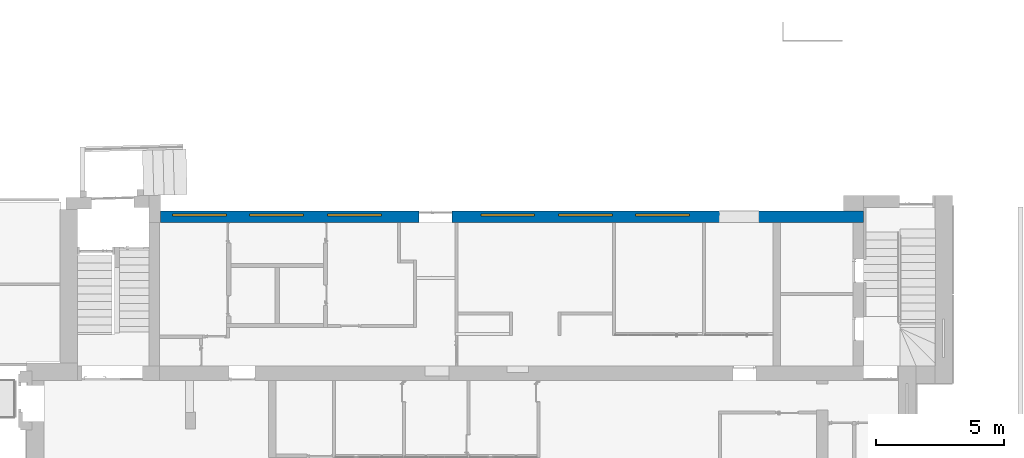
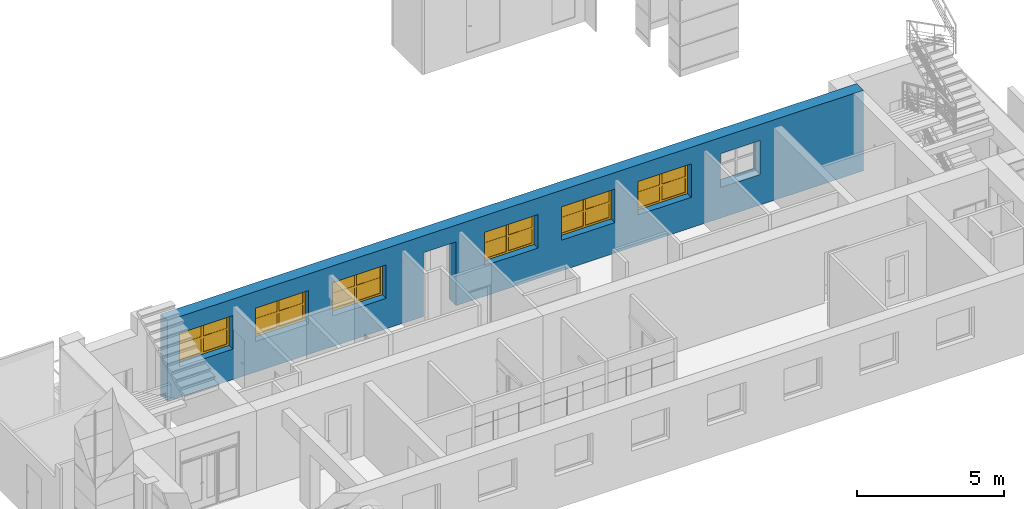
# One storey, part 25 of 49: 6 windows, 1 wall, 8 openings.
"""IFC2X3 building model written with IfcOpenShell, lengths in millimetres."""

from ifc_helpers import new_model, entity, si_unit, converted_unit, derived_unit, direction, frame, frame_2d, origin, place, context, subcontext, project, spatial, rectangle, extrude, face_set, faceted_brep, surface_model, source, transform, mapped, material, material_list, layer, layer_set, layer_usage, type_object, type_shapes, element, fill, save


model = new_model("IFC2X3")

# Units and contexts
model_context = context("Model", 3, precision=0.01, world=origin(), true_north=direction((6.12303176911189e-17, 1.0)))
body_context = subcontext(model_context, "Body", "Model", "MODEL_VIEW")
ifc_project = project(units=[si_unit("LENGTHUNIT", "METRE", prefix="MILLI"), si_unit("AREAUNIT", "SQUARE_METRE"), si_unit("VOLUMEUNIT", "CUBIC_METRE"), converted_unit("PLANEANGLEUNIT", "DEGREE", entity("IfcRatioMeasure", 0.0174532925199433), si_unit("PLANEANGLEUNIT", "RADIAN"), dimensions=[0, 0, 0, 0, 0, 0, 0]), si_unit("MASSUNIT", "GRAM", prefix="KILO"), derived_unit("MASSDENSITYUNIT", [(si_unit("MASSUNIT", "GRAM", prefix="KILO"), 1), (si_unit("LENGTHUNIT", "METRE"), -3)]), si_unit("TIMEUNIT", "SECOND"), si_unit("FREQUENCYUNIT", "HERTZ"), si_unit("THERMODYNAMICTEMPERATUREUNIT", "DEGREE_CELSIUS"), derived_unit("THERMALTRANSMITTANCEUNIT", [(si_unit("MASSUNIT", "GRAM", prefix="KILO"), 1), (si_unit("THERMODYNAMICTEMPERATUREUNIT", "KELVIN"), -1), (si_unit("TIMEUNIT", "SECOND"), -3)]), derived_unit("VOLUMETRICFLOWRATEUNIT", [(si_unit("LENGTHUNIT", "METRE"), 3), (si_unit("TIMEUNIT", "SECOND"), -1)]), si_unit("ELECTRICCURRENTUNIT", "AMPERE"), si_unit("ELECTRICVOLTAGEUNIT", "VOLT"), si_unit("POWERUNIT", "WATT"), si_unit("FORCEUNIT", "NEWTON", prefix="KILO"), si_unit("ILLUMINANCEUNIT", "LUX"), si_unit("LUMINOUSFLUXUNIT", "LUMEN"), si_unit("LUMINOUSINTENSITYUNIT", "CANDELA"), derived_unit("USERDEFINED", [(si_unit("MASSUNIT", "GRAM", prefix="KILO"), -1), (si_unit("LENGTHUNIT", "METRE"), -2), (si_unit("TIMEUNIT", "SECOND"), 3), (si_unit("LUMINOUSFLUXUNIT", "LUMEN"), 1)]), derived_unit("LINEARVELOCITYUNIT", [(si_unit("LENGTHUNIT", "METRE"), 1), (si_unit("TIMEUNIT", "SECOND"), -1)]), si_unit("PRESSUREUNIT", "PASCAL"), derived_unit("USERDEFINED", [(si_unit("LENGTHUNIT", "METRE"), -2), (si_unit("MASSUNIT", "GRAM", prefix="KILO"), 1), (si_unit("TIMEUNIT", "SECOND"), -2)])], contexts=[model_context])

# Site, building, storey
site_placement = place(None, frame((-151.875543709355, 2715.0, 0.0)))
site = spatial("IfcSite", under=ifc_project, at=site_placement, Name="Surface", CompositionType="ELEMENT")
building_placement = place(site_placement, origin())
building = spatial("IfcBuilding", under=site, at=building_placement, CompositionType="ELEMENT")
storey_placement = place(building_placement, origin())
storey = spatial("IfcBuildingStorey", under=building, at=storey_placement, Name="1 korrus", CompositionType="ELEMENT", Elevation=3.0969999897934e-10)

# Wall, openings, windows
ifc_material_1 = material(Name="Brick, Common")
ifc_layer_1 = layer(ifc_material_1, 440.0)
ifc_material_2 = material(Name="__Kips GN13_tava")
ifc_layer_2 = layer(ifc_material_2, 20.0)
ifc_layer_set = layer_set([ifc_layer_1, ifc_layer_2], Name="Basic Wall:VS-1")
ifc_layer_usage = layer_usage(ifc_layer_set, "AXIS2", "POSITIVE", -230.0)
wall_type = type_object("IfcWallType", Name="Basic Wall:VS-1", PredefinedType="STANDARD", material=ifc_layer_set)
wall_placement = place(storey_placement, frame((32372.6162682, 12380.0, 0.0), z_axis=(0.0, 0.0, 1.0), x_axis=(-1.0, 0.0, 0.0)))
wall = element("IfcWallStandardCase", 1, at=wall_placement, inside=storey, type_object=wall_type, material=ifc_layer_usage, Name="SEIN - 005", ObjectType="Basic Wall:VS-1", context=body_context, shape_type="SweptSolid", body=[
    extrude(rectangle(XDim=27372.5418693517, YDim=459.999999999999, at=frame_2d((13686.2709346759, 0.0), x_axis=(-1.0, 0.0))), origin(), (0.0, 0.0, 1.0), 3350.0),
])
opening_1_placement = place(wall_placement, frame((17305.16015629, 230.0, 0.0)))
element("IfcOpeningElement", 2, at=opening_1_placement, cuts=wall, Name="Kahepoolsed:VU-03:1", ObjectType="Opening", context=body_context, shape_type="SweptSolid", body=[
    extrude(rectangle(XDim=2651.99999999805, YDim=1280.0, at=frame_2d((1325.99999999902, 640.0), x_axis=(1.0, 0.0))), frame((0.0, 0.0, 0.0), z_axis=(0.0, -1.0, 0.0), x_axis=(0.0, 0.0, 1.0)), (0.0, 0.0, 1.0), 460.0),
])
opening_2_placement = place(wall_placement, frame((32372.6162682, 12380.0, 0.0), z_axis=(0.0, 0.0, 1.0), x_axis=(-1.0, 0.0, 0.0)))
opening_2 = element("IfcOpeningElement", 3, at=opening_2_placement, cuts=wall, Name="SEIN - 005", ObjectType="Opening", context=body_context, shape_type="SweptSolid", body=[
    extrude(rectangle(XDim=1390.0, YDim=2100.0, at=frame_2d((0.0, -1.70530256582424e-13), x_axis=(0.0, 1.0))), frame((21548.54845151, 13075.9, 1965.0), z_axis=(0.0, -1.0, 0.0), x_axis=(-1.0, 0.0, 0.0)), (0.0, 0.0, 1.0), 1393.8),
])
opening_3_placement = place(wall_placement, frame((32372.6162682, 12380.0, 0.0), z_axis=(0.0, 0.0, 1.0), x_axis=(-1.0, 0.0, 0.0)))
opening_3 = element("IfcOpeningElement", 4, at=opening_3_placement, cuts=wall, Name="SEIN - 005", ObjectType="Opening", context=body_context, shape_type="SweptSolid", body=[
    extrude(rectangle(XDim=1390.0, YDim=2100.0, at=frame_2d((0.0, -1.70530256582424e-13), x_axis=(0.0, 1.0))), frame((18519.33212281, 13075.9, 1965.0), z_axis=(0.0, -1.0, 0.0), x_axis=(-1.0, 0.0, 0.0)), (0.0, 0.0, 1.0), 1393.8),
])
opening_4_placement = place(wall_placement, frame((32372.6162682, 12380.0, 0.0), z_axis=(0.0, 0.0, 1.0), x_axis=(-1.0, 0.0, 0.0)))
opening_4 = element("IfcOpeningElement", 5, at=opening_4_placement, cuts=wall, Name="SEIN - 005", ObjectType="Opening", context=body_context, shape_type="SweptSolid", body=[
    extrude(rectangle(XDim=1390.0, YDim=2100.0, at=frame_2d((0.0, -1.70530256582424e-13), x_axis=(0.0, 1.0))), frame((24552.23007201, 13075.9, 1965.0), z_axis=(0.0, -1.0, 0.0), x_axis=(-1.0, 0.0, 0.0)), (0.0, 0.0, 1.0), 1393.8),
])
opening_5_placement = place(wall_placement, frame((32372.6162682, 12380.0, 0.0), z_axis=(0.0, 0.0, 1.0), x_axis=(-1.0, 0.0, 0.0)))
opening_5 = element("IfcOpeningElement", 6, at=opening_5_placement, cuts=wall, Name="SEIN - 005", ObjectType="Opening", context=body_context, shape_type="SweptSolid", body=[
    extrude(rectangle(XDim=1390.0, YDim=2100.0, at=frame_2d((1.02318153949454e-12, -1.70530256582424e-13), x_axis=(0.0, 1.0))), frame((12554.42733764, 13075.9, 1965.0), z_axis=(0.0, -1.0, 0.0), x_axis=(-1.0, 0.0, 0.0)), (0.0, 0.0, 1.0), 1393.8),
])
opening_6_placement = place(wall_placement, frame((32372.6162682, 12380.0, 0.0), z_axis=(0.0, 0.0, 1.0), x_axis=(-1.0, 0.0, 0.0)))
opening_6 = element("IfcOpeningElement", 7, at=opening_6_placement, cuts=wall, Name="SEIN - 005", ObjectType="Opening", context=body_context, shape_type="SweptSolid", body=[
    extrude(rectangle(XDim=1390.0, YDim=2100.0, at=frame_2d((0.0, -1.70530256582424e-13), x_axis=(0.0, 1.0))), frame((9509.01718139, 13075.9, 1965.0), z_axis=(0.0, -1.0, 0.0), x_axis=(-1.0, 0.0, 0.0)), (0.0, 0.0, 1.0), 1393.8),
])
opening_7_placement = place(wall_placement, frame((32372.6162682, 12380.0, 0.0), z_axis=(0.0, 0.0, 1.0), x_axis=(-1.0, 0.0, 0.0)))
opening_7 = element("IfcOpeningElement", 8, at=opening_7_placement, cuts=wall, Name="SEIN - 005", ObjectType="Opening", context=body_context, shape_type="SweptSolid", body=[
    extrude(rectangle(XDim=1390.0, YDim=2100.0, at=frame_2d((-5.6843418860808e-13, -1.70530256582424e-13), x_axis=(0.0, 1.0))), frame((6523.47761591, 13075.9, 1965.0), z_axis=(0.0, -1.0, 0.0), x_axis=(-1.0, 0.0, 0.0)), (0.0, 0.0, 1.0), 1393.8),
])
opening_8_placement = place(wall_placement, frame((5619.75387196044, 730.0, 1013.53078801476), z_axis=(0.0, 0.0, 1.0), x_axis=(-1.0, 0.0, 0.0)))
element("IfcOpeningElement", 9, at=opening_8_placement, cuts=wall, Name="SEIN - 005", ObjectType="Opening", context=body_context, shape_type="Brep", body=[
    faceted_brep([(0.0, 1460.0, 1666.46921198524), (0.0, 0.0, 1666.46921198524), (1560.0, 0.0, 1666.46921198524), (1560.0, 1460.0, 1666.46921198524), (1560.0, 910.0, 256.469211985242), (1560.0, 0.0, 256.469211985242), (0.0, 0.0, 256.469211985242), (0.0, 910.0, 256.469211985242), (0.0, 1460.0, 0.0), (1560.0, 1460.0, 0.0)], [[[0, 1, 2, 3]], [[4, 5, 6, 7]], [[0, 8, 7, 6, 1]], [[2, 5, 4, 9, 3]], [[3, 9, 8, 0]], [[8, 9, 4, 7]], [[1, 6, 5, 2]]]),
])
ifc_material_3 = material(Name="Paint - Dark Gray")
ifc_material_4 = material(Name="Paint - Titanium White")
ifc_material_5 = material(Name="Glass - Clear Fast")
ifc_material_list_1 = material_list([ifc_material_3, ifc_material_4, ifc_material_5])
ifc_material_list_2 = material_list([ifc_material_3, ifc_material_4, ifc_material_5])
window_style = type_object("IfcWindowStyle", Name="Aken_1390x2100", ConstructionType="NOTDEFINED", OperationType="DOUBLE_PANEL_VERTICAL", ParameterTakesPrecedence=False, Sizeable=False, material=ifc_material_list_2)
shared_shape = source(origin(), body_context, "Body", "SurfaceModel", [
    surface_model("IfcFaceBasedSurfaceModel", [(2020.0, -797.9, 1310.0), (2100.0, -797.9, 1310.0), (2100.0, -752.9, 1310.0), (2020.0, -752.9, 1310.0), (2020.0, -797.9, 1310.0), (2020.0, -797.9, 80.0), (2100.0, -797.9, 80.0), (2100.0, -797.9, 1310.0), (2100.0, -797.9, 1310.0), (2100.0, -797.9, 80.0), (2100.0, -752.9, 80.0), (2100.0, -752.9, 1310.0), (2020.0, -752.9, 1310.0), (2100.0, -752.9, 1310.0), (2100.0, -752.9, 80.0), (2020.0, -752.9, 80.0), (2020.0, -797.9, 80.0), (2020.0, -797.9, 1310.0), (2020.0, -752.9, 1310.0), (2020.0, -752.9, 80.0), (2100.0, -797.9, 80.0), (2020.0, -797.9, 80.0), (2020.0, -752.9, 80.0), (2100.0, -752.9, 80.0), (80.0, -797.9, 80.0), (0.0, -797.9, 80.0), (0.0, -752.9, 80.0), (80.0, -752.9, 80.0), (80.0, -797.9, 80.0), (80.0, -797.9, 1310.0), (0.0, -797.9, 1310.0), (0.0, -797.9, 80.0), (0.0, -797.9, 80.0), (0.0, -797.9, 1310.0), (0.0, -752.9, 1310.0), (0.0, -752.9, 80.0), (80.0, -752.9, 80.0), (0.0, -752.9, 80.0), (0.0, -752.9, 1310.0), (80.0, -752.9, 1310.0), (80.0, -797.9, 1310.0), (80.0, -797.9, 80.0), (80.0, -752.9, 80.0), (80.0, -752.9, 1310.0), (0.0, -797.9, 1310.0), (80.0, -797.9, 1310.0), (80.0, -752.9, 1310.0), (0.0, -752.9, 1310.0), (1090.0, -797.9, 80.0), (1010.0, -797.9, 80.0), (1010.0, -752.9, 80.0), (1090.0, -752.9, 80.0), (1090.0, -797.9, 80.0), (1090.0, -797.9, 1310.0), (1010.0, -797.9, 1310.0), (1010.0, -797.9, 80.0), (1010.0, -797.9, 80.0), (1010.0, -797.9, 1310.0), (1010.0, -752.9, 1310.0), (1010.0, -752.9, 80.0), (1090.0, -752.9, 80.0), (1010.0, -752.9, 80.0), (1010.0, -752.9, 1310.0), (1090.0, -752.9, 1310.0), (1090.0, -797.9, 1310.0), (1090.0, -797.9, 80.0), (1090.0, -752.9, 80.0), (1090.0, -752.9, 1310.0), (1010.0, -797.9, 1310.0), (1090.0, -797.9, 1310.0), (1090.0, -752.9, 1310.0), (1010.0, -752.9, 1310.0), (2020.0, -797.9, 80.0), (2100.0, -797.9, 80.0), (2100.0, -752.9, 80.0), (2020.0, -752.9, 80.0), (2020.0, -797.9, 80.0), (1090.0, -797.9, 80.0), (1010.0, -797.9, 80.0), (80.0, -797.9, 80.0), (0.0, -797.9, 80.0), (0.0, -797.9, 0.0), (2100.0, -797.9, 0.0), (2100.0, -797.9, 80.0), (2100.0, -797.9, 80.0), (2100.0, -797.9, 0.0), (2100.0, -752.9, 0.0), (2100.0, -752.9, 80.0), (2020.0, -752.9, 80.0), (2100.0, -752.9, 80.0), (2100.0, -752.9, 0.0), (0.0, -752.9, 0.0), (0.0, -752.9, 80.0), (80.0, -752.9, 80.0), (1010.0, -752.9, 80.0), (1090.0, -752.9, 80.0), (1090.0, -797.9, 80.0), (2020.0, -797.9, 80.0), (2020.0, -752.9, 80.0), (1090.0, -752.9, 80.0), (1010.0, -797.9, 80.0), (1090.0, -797.9, 80.0), (1090.0, -752.9, 80.0), (1010.0, -752.9, 80.0), (80.0, -797.9, 80.0), (1010.0, -797.9, 80.0), (1010.0, -752.9, 80.0), (80.0, -752.9, 80.0), (0.0, -797.9, 80.0), (80.0, -797.9, 80.0), (80.0, -752.9, 80.0), (0.0, -752.9, 80.0), (0.0, -797.9, 0.0), (0.0, -797.9, 80.0), (0.0, -752.9, 80.0), (0.0, -752.9, 0.0), (2100.0, -797.9, 0.0), (0.0, -797.9, 0.0), (0.0, -752.9, 0.0), (2100.0, -752.9, 0.0), (1090.0, -797.9, 1310.0), (1010.0, -797.9, 1310.0), (1010.0, -752.9, 1310.0), (1090.0, -752.9, 1310.0), (1090.0, -797.9, 1310.0), (2020.0, -797.9, 1310.0), (2100.0, -797.9, 1310.0), (2100.0, -797.9, 1390.0), (0.0, -797.9, 1390.0), (0.0, -797.9, 1310.0), (80.0, -797.9, 1310.0), (1010.0, -797.9, 1310.0), (1010.0, -797.9, 1310.0), (80.0, -797.9, 1310.0), (80.0, -752.9, 1310.0), (1010.0, -752.9, 1310.0), (1090.0, -752.9, 1310.0), (1010.0, -752.9, 1310.0), (80.0, -752.9, 1310.0), (0.0, -752.9, 1310.0), (0.0, -752.9, 1390.0), (2100.0, -752.9, 1390.0), (2100.0, -752.9, 1310.0), (2020.0, -752.9, 1310.0), (2020.0, -797.9, 1310.0), (1090.0, -797.9, 1310.0), (1090.0, -752.9, 1310.0), (2020.0, -752.9, 1310.0), (2100.0, -797.9, 1310.0), (2020.0, -797.9, 1310.0), (2020.0, -752.9, 1310.0), (2100.0, -752.9, 1310.0), (2100.0, -797.9, 1390.0), (2100.0, -797.9, 1310.0), (2100.0, -752.9, 1310.0), (2100.0, -752.9, 1390.0), (0.0, -797.9, 1390.0), (2100.0, -797.9, 1390.0), (2100.0, -752.9, 1390.0), (0.0, -752.9, 1390.0), (0.0, -797.9, 1310.0), (0.0, -797.9, 1390.0), (0.0, -752.9, 1390.0), (0.0, -752.9, 1310.0), (80.0, -797.9, 1310.0), (0.0, -797.9, 1310.0), (0.0, -752.9, 1310.0), (80.0, -752.9, 1310.0), (2020.0, -772.9, 655.0), (1090.0, -772.9, 655.0), (1090.0, -762.9, 655.0), (2020.0, -762.9, 655.0), (2020.0, -772.9, 655.0), (2020.0, -772.9, 735.0), (1090.0, -772.9, 735.0), (1090.0, -772.9, 655.0), (1090.0, -772.9, 655.0), (1090.0, -772.9, 735.0), (1090.0, -762.9, 735.0), (1090.0, -762.9, 655.0), (2020.0, -762.9, 655.0), (1090.0, -762.9, 655.0), (1090.0, -762.9, 735.0), (2020.0, -762.9, 735.0), (2020.0, -772.9, 735.0), (2020.0, -772.9, 655.0), (2020.0, -762.9, 655.0), (2020.0, -762.9, 735.0), (1090.0, -772.9, 735.0), (2020.0, -772.9, 735.0), (2020.0, -762.9, 735.0), (1090.0, -762.9, 735.0), (1010.0, -772.9, 655.0), (80.0, -772.9, 655.0), (80.0, -762.9, 655.0), (1010.0, -762.9, 655.0), (1010.0, -772.9, 655.0), (1010.0, -772.9, 735.0), (80.0, -772.9, 735.0), (80.0, -772.9, 655.0), (80.0, -772.9, 655.0), (80.0, -772.9, 735.0), (80.0, -762.9, 735.0), (80.0, -762.9, 655.0), (1010.0, -762.9, 655.0), (80.0, -762.9, 655.0), (80.0, -762.9, 735.0), (1010.0, -762.9, 735.0), (1010.0, -772.9, 735.0), (1010.0, -772.9, 655.0), (1010.0, -762.9, 655.0), (1010.0, -762.9, 735.0), (80.0, -772.9, 735.0), (1010.0, -772.9, 735.0), (1010.0, -762.9, 735.0), (80.0, -762.9, 735.0)], [face_set([[[0, 1, 2, 3]]]), face_set([[[4, 5, 6, 7]]]), face_set([[[8, 9, 10, 11]]]), face_set([[[12, 13, 14, 15]]]), face_set([[[16, 17, 18, 19]]]), face_set([[[20, 21, 22, 23]]]), face_set([[[24, 25, 26, 27]]]), face_set([[[28, 29, 30, 31]]]), face_set([[[32, 33, 34, 35]]]), face_set([[[36, 37, 38, 39]]]), face_set([[[40, 41, 42, 43]]]), face_set([[[44, 45, 46, 47]]]), face_set([[[48, 49, 50, 51]]]), face_set([[[52, 53, 54, 55]]]), face_set([[[56, 57, 58, 59]]]), face_set([[[60, 61, 62, 63]]]), face_set([[[64, 65, 66, 67]]]), face_set([[[68, 69, 70, 71]]]), face_set([[[72, 73, 74, 75]]]), face_set([[[76, 77, 78, 79, 80, 81, 82, 83]]]), face_set([[[84, 85, 86, 87]]]), face_set([[[88, 89, 90, 91, 92, 93, 94, 95]]]), face_set([[[96, 97, 98, 99]]]), face_set([[[100, 101, 102, 103]]]), face_set([[[104, 105, 106, 107]]]), face_set([[[108, 109, 110, 111]]]), face_set([[[112, 113, 114, 115]]]), face_set([[[116, 117, 118, 119]]]), face_set([[[120, 121, 122, 123]]]), face_set([[[124, 125, 126, 127, 128, 129, 130, 131]]]), face_set([[[132, 133, 134, 135]]]), face_set([[[136, 137, 138, 139, 140, 141, 142, 143]]]), face_set([[[144, 145, 146, 147]]]), face_set([[[148, 149, 150, 151]]]), face_set([[[152, 153, 154, 155]]]), face_set([[[156, 157, 158, 159]]]), face_set([[[160, 161, 162, 163]]]), face_set([[[164, 165, 166, 167]]]), face_set([[[168, 169, 170, 171]]]), face_set([[[172, 173, 174, 175]]]), face_set([[[176, 177, 178, 179]]]), face_set([[[180, 181, 182, 183]]]), face_set([[[184, 185, 186, 187]]]), face_set([[[188, 189, 190, 191]]]), face_set([[[192, 193, 194, 195]]]), face_set([[[196, 197, 198, 199]]]), face_set([[[200, 201, 202, 203]]]), face_set([[[204, 205, 206, 207]]]), face_set([[[208, 209, 210, 211]]]), face_set([[[212, 213, 214, 215]]])]),
    surface_model("IfcFaceBasedSurfaceModel", [(2020.0, -752.9, 1310.0), (2100.0, -752.9, 1310.0), (2100.0, -727.9, 1310.0), (2020.0, -727.9, 1310.0), (2020.0, -752.9, 1310.0), (2020.0, -752.9, 80.0), (2100.0, -752.9, 80.0), (2100.0, -752.9, 1310.0), (2100.0, -752.9, 1310.0), (2100.0, -752.9, 80.0), (2100.0, -727.9, 80.0), (2100.0, -727.9, 1310.0), (2020.0, -727.9, 1310.0), (2100.0, -727.9, 1310.0), (2100.0, -727.9, 80.0), (2020.0, -727.9, 80.0), (2020.0, -752.9, 80.0), (2020.0, -752.9, 1310.0), (2020.0, -727.9, 1310.0), (2020.0, -727.9, 80.0), (2100.0, -752.9, 80.0), (2020.0, -752.9, 80.0), (2020.0, -727.9, 80.0), (2100.0, -727.9, 80.0), (80.0, -752.9, 80.0), (0.0, -752.9, 80.0), (0.0, -727.9, 80.0), (80.0, -727.9, 80.0), (80.0, -752.9, 80.0), (80.0, -752.9, 1310.0), (0.0, -752.9, 1310.0), (0.0, -752.9, 80.0), (0.0, -752.9, 80.0), (0.0, -752.9, 1310.0), (0.0, -727.9, 1310.0), (0.0, -727.9, 80.0), (80.0, -727.9, 80.0), (0.0, -727.9, 80.0), (0.0, -727.9, 1310.0), (80.0, -727.9, 1310.0), (80.0, -752.9, 1310.0), (80.0, -752.9, 80.0), (80.0, -727.9, 80.0), (80.0, -727.9, 1310.0), (0.0, -752.9, 1310.0), (80.0, -752.9, 1310.0), (80.0, -727.9, 1310.0), (0.0, -727.9, 1310.0), (1090.0, -752.9, 80.0), (1010.0, -752.9, 80.0), (1010.0, -727.9, 80.0), (1090.0, -727.9, 80.0), (1090.0, -752.9, 80.0), (1090.0, -752.9, 1310.0), (1010.0, -752.9, 1310.0), (1010.0, -752.9, 80.0), (1010.0, -752.9, 80.0), (1010.0, -752.9, 1310.0), (1010.0, -727.9, 1310.0), (1010.0, -727.9, 80.0), (1090.0, -727.9, 80.0), (1010.0, -727.9, 80.0), (1010.0, -727.9, 1310.0), (1090.0, -727.9, 1310.0), (1090.0, -752.9, 1310.0), (1090.0, -752.9, 80.0), (1090.0, -727.9, 80.0), (1090.0, -727.9, 1310.0), (1010.0, -752.9, 1310.0), (1090.0, -752.9, 1310.0), (1090.0, -727.9, 1310.0), (1010.0, -727.9, 1310.0), (2020.0, -752.9, 80.0), (2100.0, -752.9, 80.0), (2100.0, -727.9, 80.0), (2020.0, -727.9, 80.0), (2020.0, -752.9, 80.0), (1090.0, -752.9, 80.0), (1010.0, -752.9, 80.0), (80.0, -752.9, 80.0), (0.0, -752.9, 80.0), (0.0, -752.9, 0.0), (2100.0, -752.9, 0.0), (2100.0, -752.9, 80.0), (2100.0, -752.9, 80.0), (2100.0, -752.9, 0.0), (2100.0, -727.9, 0.0), (2100.0, -727.9, 80.0), (2020.0, -727.9, 80.0), (2100.0, -727.9, 80.0), (2100.0, -727.9, 0.0), (0.0, -727.9, 0.0), (0.0, -727.9, 80.0), (80.0, -727.9, 80.0), (1010.0, -727.9, 80.0), (1090.0, -727.9, 80.0), (1090.0, -752.9, 80.0), (2020.0, -752.9, 80.0), (2020.0, -727.9, 80.0), (1090.0, -727.9, 80.0), (1010.0, -752.9, 80.0), (1090.0, -752.9, 80.0), (1090.0, -727.9, 80.0), (1010.0, -727.9, 80.0), (80.0, -752.9, 80.0), (1010.0, -752.9, 80.0), (1010.0, -727.9, 80.0), (80.0, -727.9, 80.0), (0.0, -752.9, 80.0), (80.0, -752.9, 80.0), (80.0, -727.9, 80.0), (0.0, -727.9, 80.0), (0.0, -752.9, 0.0), (0.0, -752.9, 80.0), (0.0, -727.9, 80.0), (0.0, -727.9, 0.0), (2100.0, -752.9, 0.0), (0.0, -752.9, 0.0), (0.0, -727.9, 0.0), (2100.0, -727.9, 0.0), (1090.0, -752.9, 1310.0), (1010.0, -752.9, 1310.0), (1010.0, -727.9, 1310.0), (1090.0, -727.9, 1310.0), (1090.0, -752.9, 1310.0), (2020.0, -752.9, 1310.0), (2100.0, -752.9, 1310.0), (2100.0, -752.9, 1390.0), (0.0, -752.9, 1390.0), (0.0, -752.9, 1310.0), (80.0, -752.9, 1310.0), (1010.0, -752.9, 1310.0), (1010.0, -752.9, 1310.0), (80.0, -752.9, 1310.0), (80.0, -727.9, 1310.0), (1010.0, -727.9, 1310.0), (1090.0, -727.9, 1310.0), (1010.0, -727.9, 1310.0), (80.0, -727.9, 1310.0), (0.0, -727.9, 1310.0), (0.0, -727.9, 1390.0), (2100.0, -727.9, 1390.0), (2100.0, -727.9, 1310.0), (2020.0, -727.9, 1310.0), (2020.0, -752.9, 1310.0), (1090.0, -752.9, 1310.0), (1090.0, -727.9, 1310.0), (2020.0, -727.9, 1310.0), (2100.0, -752.9, 1310.0), (2020.0, -752.9, 1310.0), (2020.0, -727.9, 1310.0), (2100.0, -727.9, 1310.0), (2100.0, -752.9, 1390.0), (2100.0, -752.9, 1310.0), (2100.0, -727.9, 1310.0), (2100.0, -727.9, 1390.0), (0.0, -752.9, 1390.0), (2100.0, -752.9, 1390.0), (2100.0, -727.9, 1390.0), (0.0, -727.9, 1390.0), (0.0, -752.9, 1310.0), (0.0, -752.9, 1390.0), (0.0, -727.9, 1390.0), (0.0, -727.9, 1310.0), (80.0, -752.9, 1310.0), (0.0, -752.9, 1310.0), (0.0, -727.9, 1310.0), (80.0, -727.9, 1310.0), (2020.0, -762.9, 655.0), (1090.0, -762.9, 655.0), (1090.0, -732.9, 655.0), (2020.0, -732.9, 655.0), (2020.0, -762.9, 655.0), (2020.0, -762.9, 735.0), (1090.0, -762.9, 735.0), (1090.0, -762.9, 655.0), (1090.0, -762.9, 655.0), (1090.0, -762.9, 735.0), (1090.0, -732.9, 735.0), (1090.0, -732.9, 655.0), (2020.0, -732.9, 655.0), (1090.0, -732.9, 655.0), (1090.0, -732.9, 735.0), (2020.0, -732.9, 735.0), (2020.0, -762.9, 735.0), (2020.0, -762.9, 655.0), (2020.0, -732.9, 655.0), (2020.0, -732.9, 735.0), (1090.0, -762.9, 735.0), (2020.0, -762.9, 735.0), (2020.0, -732.9, 735.0), (1090.0, -732.9, 735.0), (1010.0, -762.9, 655.0), (80.0, -762.9, 655.0), (80.0, -732.9, 655.0), (1010.0, -732.9, 655.0), (1010.0, -762.9, 655.0), (1010.0, -762.9, 735.0), (80.0, -762.9, 735.0), (80.0, -762.9, 655.0), (80.0, -762.9, 655.0), (80.0, -762.9, 735.0), (80.0, -732.9, 735.0), (80.0, -732.9, 655.0), (1010.0, -732.9, 655.0), (80.0, -732.9, 655.0), (80.0, -732.9, 735.0), (1010.0, -732.9, 735.0), (1010.0, -762.9, 735.0), (1010.0, -762.9, 655.0), (1010.0, -732.9, 655.0), (1010.0, -732.9, 735.0), (80.0, -762.9, 735.0), (1010.0, -762.9, 735.0), (1010.0, -732.9, 735.0), (80.0, -732.9, 735.0)], [face_set([[[0, 1, 2, 3]]]), face_set([[[4, 5, 6, 7]]]), face_set([[[8, 9, 10, 11]]]), face_set([[[12, 13, 14, 15]]]), face_set([[[16, 17, 18, 19]]]), face_set([[[20, 21, 22, 23]]]), face_set([[[24, 25, 26, 27]]]), face_set([[[28, 29, 30, 31]]]), face_set([[[32, 33, 34, 35]]]), face_set([[[36, 37, 38, 39]]]), face_set([[[40, 41, 42, 43]]]), face_set([[[44, 45, 46, 47]]]), face_set([[[48, 49, 50, 51]]]), face_set([[[52, 53, 54, 55]]]), face_set([[[56, 57, 58, 59]]]), face_set([[[60, 61, 62, 63]]]), face_set([[[64, 65, 66, 67]]]), face_set([[[68, 69, 70, 71]]]), face_set([[[72, 73, 74, 75]]]), face_set([[[76, 77, 78, 79, 80, 81, 82, 83]]]), face_set([[[84, 85, 86, 87]]]), face_set([[[88, 89, 90, 91, 92, 93, 94, 95]]]), face_set([[[96, 97, 98, 99]]]), face_set([[[100, 101, 102, 103]]]), face_set([[[104, 105, 106, 107]]]), face_set([[[108, 109, 110, 111]]]), face_set([[[112, 113, 114, 115]]]), face_set([[[116, 117, 118, 119]]]), face_set([[[120, 121, 122, 123]]]), face_set([[[124, 125, 126, 127, 128, 129, 130, 131]]]), face_set([[[132, 133, 134, 135]]]), face_set([[[136, 137, 138, 139, 140, 141, 142, 143]]]), face_set([[[144, 145, 146, 147]]]), face_set([[[148, 149, 150, 151]]]), face_set([[[152, 153, 154, 155]]]), face_set([[[156, 157, 158, 159]]]), face_set([[[160, 161, 162, 163]]]), face_set([[[164, 165, 166, 167]]]), face_set([[[168, 169, 170, 171]]]), face_set([[[172, 173, 174, 175]]]), face_set([[[176, 177, 178, 179]]]), face_set([[[180, 181, 182, 183]]]), face_set([[[184, 185, 186, 187]]]), face_set([[[188, 189, 190, 191]]]), face_set([[[192, 193, 194, 195]]]), face_set([[[196, 197, 198, 199]]]), face_set([[[200, 201, 202, 203]]]), face_set([[[204, 205, 206, 207]]]), face_set([[[208, 209, 210, 211]]]), face_set([[[212, 213, 214, 215]]])]),
    surface_model("IfcFaceBasedSurfaceModel", [(1090.0, -762.9, 80.0), (2020.0, -762.9, 80.0), (2020.0, -762.9, 655.0), (1090.0, -762.9, 655.0), (1090.0, -742.9, 80.0), (1090.0, -742.9, 655.0), (2020.0, -742.9, 655.0), (2020.0, -742.9, 80.0), (1090.0, -762.9, 735.0), (2020.0, -762.9, 735.0), (2020.0, -762.9, 1310.0), (1090.0, -762.9, 1310.0), (1090.0, -742.9, 735.0), (1090.0, -742.9, 1310.0), (2020.0, -742.9, 1310.0), (2020.0, -742.9, 735.0), (80.0, -762.9, 80.0), (1010.0, -762.9, 80.0), (1010.0, -762.9, 655.0), (80.0, -762.9, 655.0), (80.0, -742.9, 80.0), (80.0, -742.9, 655.0), (1010.0, -742.9, 655.0), (1010.0, -742.9, 80.0), (80.0, -762.9, 735.0), (1010.0, -762.9, 735.0), (1010.0, -762.9, 1310.0), (80.0, -762.9, 1310.0), (80.0, -742.9, 735.0), (80.0, -742.9, 1310.0), (1010.0, -742.9, 1310.0), (1010.0, -742.9, 735.0)], [face_set([[[0, 1, 2, 3]]]), face_set([[[4, 5, 6, 7]]]), face_set([[[8, 9, 10, 11]]]), face_set([[[12, 13, 14, 15]]]), face_set([[[16, 17, 18, 19]]]), face_set([[[20, 21, 22, 23]]]), face_set([[[24, 25, 26, 27]]]), face_set([[[28, 29, 30, 31]]])]),
])
type_shapes(window_style, [shared_shape])
window_1_placement = place(opening_2_placement, frame((22598.54845151, 11682.1, 1270.0), z_axis=(0.0, 0.0, 1.0), x_axis=(-1.0, 0.0, 0.0)))
window_1 = element("IfcWindow", 10, at=window_1_placement, inside=storey, type_object=window_style, material=ifc_material_list_1, Name="Aken_1390x2100:Aken_1390x2100", ObjectType="Aken_1390x2100", OverallHeight=1390.0, OverallWidth=2100.0, context=body_context, shape_type="MappedRepresentation", body=[
    mapped(shared_shape, transform((0.0, 0.0, 0.0), scale=1.0)),
])
fill(opening_2, window_1)
ifc_material_list_3 = material_list([ifc_material_3, ifc_material_4, ifc_material_5])
window_2_placement = place(opening_3_placement, frame((19569.33212281, 11682.1, 1270.0), z_axis=(0.0, 0.0, 1.0), x_axis=(-1.0, 0.0, 0.0)))
window_2 = element("IfcWindow", 11, at=window_2_placement, inside=storey, type_object=window_style, material=ifc_material_list_3, Name="Aken_1390x2100:Aken_1390x2100", ObjectType="Aken_1390x2100", OverallHeight=1390.0, OverallWidth=2100.0, context=body_context, shape_type="MappedRepresentation", body=[
    mapped(shared_shape, transform((0.0, 0.0, 0.0), scale=1.0)),
])
fill(opening_3, window_2)
ifc_material_list_4 = material_list([ifc_material_3, ifc_material_4, ifc_material_5])
window_3_placement = place(opening_4_placement, frame((25602.23007201, 11682.1, 1270.0), z_axis=(0.0, 0.0, 1.0), x_axis=(-1.0, 0.0, 0.0)))
window_3 = element("IfcWindow", 12, at=window_3_placement, inside=storey, type_object=window_style, material=ifc_material_list_4, Name="Aken_1390x2100:Aken_1390x2100", ObjectType="Aken_1390x2100", OverallHeight=1390.0, OverallWidth=2100.0, context=body_context, shape_type="MappedRepresentation", body=[
    mapped(shared_shape, transform((0.0, 0.0, 0.0), scale=1.0)),
])
fill(opening_4, window_3)
ifc_material_list_5 = material_list([ifc_material_3, ifc_material_4, ifc_material_5])
window_4_placement = place(opening_5_placement, frame((13604.42733764, 11682.1, 1270.0), z_axis=(0.0, 0.0, 1.0), x_axis=(-1.0, 0.0, 0.0)))
window_4 = element("IfcWindow", 13, at=window_4_placement, inside=storey, type_object=window_style, material=ifc_material_list_5, Name="Aken_1390x2100:Aken_1390x2100", ObjectType="Aken_1390x2100", OverallHeight=1390.0, OverallWidth=2100.0, context=body_context, shape_type="MappedRepresentation", body=[
    mapped(shared_shape, transform((0.0, 0.0, 0.0), scale=1.0)),
])
fill(opening_5, window_4)
ifc_material_list_6 = material_list([ifc_material_3, ifc_material_4, ifc_material_5])
window_5_placement = place(opening_6_placement, frame((10559.01718139, 11682.1, 1270.0), z_axis=(0.0, 0.0, 1.0), x_axis=(-1.0, 0.0, 0.0)))
window_5 = element("IfcWindow", 14, at=window_5_placement, inside=storey, type_object=window_style, material=ifc_material_list_6, Name="Aken_1390x2100:Aken_1390x2100", ObjectType="Aken_1390x2100", OverallHeight=1390.0, OverallWidth=2100.0, context=body_context, shape_type="MappedRepresentation", body=[
    mapped(shared_shape, transform((0.0, 0.0, 0.0), scale=1.0)),
])
fill(opening_6, window_5)
ifc_material_list_7 = material_list([ifc_material_3, ifc_material_4, ifc_material_5])
window_6_placement = place(opening_7_placement, frame((7573.47761591, 11682.1, 1270.0), z_axis=(0.0, 0.0, 1.0), x_axis=(-1.0, 0.0, 0.0)))
window_6 = element("IfcWindow", 15, at=window_6_placement, inside=storey, type_object=window_style, material=ifc_material_list_7, Name="Aken_1390x2100:Aken_1390x2100", ObjectType="Aken_1390x2100", OverallHeight=1390.0, OverallWidth=2100.0, context=body_context, shape_type="MappedRepresentation", body=[
    mapped(shared_shape, transform((0.0, 0.0, 0.0), scale=1.0)),
])
fill(opening_7, window_6)

save(model, "model.ifc")
